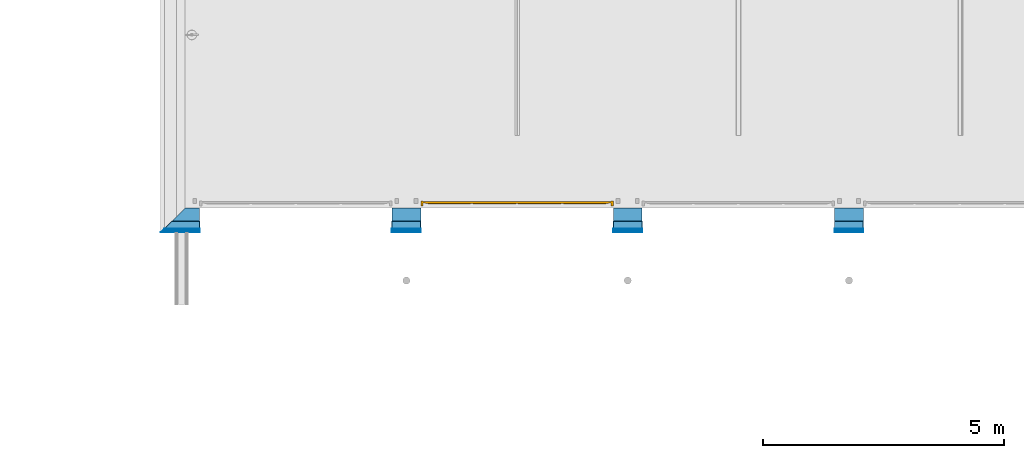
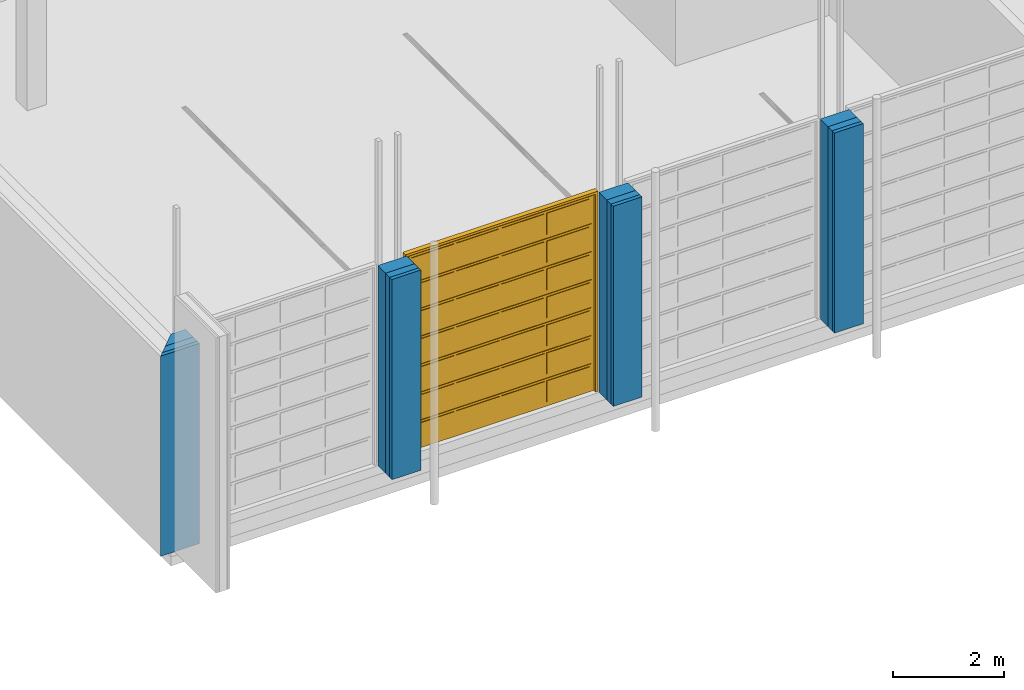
# One storey, part 21 of 112: 3 building element parts, 1 door, 4 openings, 1 element without a shape of its own.
"""IFC2X3 building model written with IfcOpenShell, lengths in millimetres."""

from ifc_helpers import new_model, entity, si_unit, converted_unit, derived_unit, money_unit, direction, frame, origin_with_axes, origin_2d_with_axis, place, context, subcontext, project, spatial, polyline, rectangle, outline, extrude, faceted_brep, source, transform, mapped, material, type_object, element, fill, aggregate, save


model = new_model("IFC2X3")

# Units and contexts
model_context = context("Model", 3, precision=0.01, world=origin_with_axes(), true_north=direction((0.0, 1.0)))
body_context = subcontext(model_context, "Body", "Model", "MODEL_VIEW")
ifc_project = project(units=[si_unit("LENGTHUNIT", "METRE", prefix="MILLI"), si_unit("AREAUNIT", "SQUARE_METRE"), si_unit("VOLUMEUNIT", "CUBIC_METRE"), converted_unit("PLANEANGLEUNIT", "DEGREE", entity("IfcPlaneAngleMeasure", 0.0174532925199), si_unit("PLANEANGLEUNIT", "RADIAN"), dimensions=[0, 0, 0, 0, 0, 0, 0]), si_unit("SOLIDANGLEUNIT", "STERADIAN"), money_unit("EUR"), converted_unit("TIMEUNIT", "Year", entity("IfcTimeMeasure", 31556926.0), si_unit("TIMEUNIT", "SECOND"), dimensions=[0, 0, 1, 0, 0, 0, 0]), si_unit("MASSUNIT", "GRAM", prefix="KILO"), si_unit("THERMODYNAMICTEMPERATUREUNIT", "DEGREE_CELSIUS"), si_unit("LUMINOUSINTENSITYUNIT", "LUMEN"), si_unit("ENERGYUNIT", "JOULE", prefix="MEGA"), derived_unit("THERMALCONDUCTANCEUNIT", [(si_unit("POWERUNIT", "WATT"), 1), (si_unit("LENGTHUNIT", "METRE"), -1), (si_unit("THERMODYNAMICTEMPERATUREUNIT", "KELVIN"), -1)]), derived_unit("SPECIFICHEATCAPACITYUNIT", [(si_unit("ENERGYUNIT", "JOULE"), 1), (si_unit("MASSUNIT", "GRAM", prefix="KILO"), -1), (si_unit("THERMODYNAMICTEMPERATUREUNIT", "KELVIN"), -1)]), derived_unit("MASSDENSITYUNIT", [(si_unit("MASSUNIT", "GRAM", prefix="KILO"), 1), (si_unit("VOLUMEUNIT", "CUBIC_METRE"), -1)])], contexts=[model_context])

# Site, building, storey
site_placement = place(None, origin_with_axes())
site = spatial("IfcSite", under=ifc_project, at=site_placement, Name="Politse- ja Piirivalveameti ning Päästeameti ühishoone", CompositionType="ELEMENT")
building_placement = place(site_placement, origin_with_axes())
building = spatial("IfcBuilding", under=site, at=building_placement, Name="Politse- ja Piirivalveameti ning Päästeameti ühishoone", CompositionType="ELEMENT")
storey_placement = place(building_placement, origin_with_axes())
storey = spatial("IfcBuildingStorey", under=building, at=storey_placement, Name="Esimene korrus", CompositionType="ELEMENT", Elevation=0.0)

# Door
door_style = type_object("IfcDoorStyle", Name="Vertical Sliding Garage Door 23", ConstructionType="NOTDEFINED", OperationType="ROLLINGUP", ParameterTakesPrecedence=False, Sizeable=False)
shared_shape = source(origin_with_axes(), body_context, "Body", "Brep", [
    faceted_brep([(2000.0, 0.0, 0.0), (2000.0, -100.0, 0.0), (1950.0, -100.0, 0.0), (1950.0, 0.0, 0.0), (2000.0, 0.0, 4350.0), (2000.0, -100.0, 4350.0), (1950.0, -100.0, 4350.0), (1950.0, 0.0, 4350.0)], [[[0, 1, 2, 3]], [[4, 5, 1, 0]], [[1, 5, 6, 2]], [[3, 2, 6, 7]], [[0, 3, 7, 4]], [[7, 6, 5, 4]]]),
    faceted_brep([(-2000.0, 0.0, 0.0), (-2000.0, -100.0, 0.0), (-2000.0, -100.0, 4350.0), (-2000.0, 0.0, 4350.0), (-1950.0, 0.0, 0.0), (-1950.0, -100.0, 0.0), (-1950.0, -100.0, 4350.0), (-1950.0, 0.0, 4350.0)], [[[0, 1, 2, 3]], [[4, 5, 1, 0]], [[1, 5, 6, 2]], [[3, 2, 6, 7]], [[0, 3, 7, 4]], [[7, 6, 5, 4]]]),
    faceted_brep([(2000.0, 0.0, 4400.0), (2000.0, -100.0, 4400.0), (2000.0, -100.0, 4350.0), (2000.0, 0.0, 4350.0), (-2000.0, 0.0, 4400.0), (-2000.0, -100.0, 4400.0), (-2000.0, -100.0, 4350.0), (-1950.0, -100.0, 4350.0), (1950.0, -100.0, 4350.0), (1950.0, 0.0, 4350.0), (-1950.0, 0.0, 4350.0), (-2000.0, 0.0, 4350.0)], [[[0, 1, 2, 3]], [[4, 5, 1, 0]], [[1, 5, 6, 7, 8, 2]], [[3, 2, 8, 9]], [[0, 3, 9, 10, 11, 4]], [[11, 6, 5, 4]], [[10, 7, 6, 11]], [[9, 8, 7, 10]]]),
    faceted_brep([(-1950.0, -5.5, 0.0), (1950.0, -5.5, 0.0), (1950.0, -35.5, 0.0), (-1950.0, -35.5, 0.0), (-1950.0, -5.5, 4350.0), (1950.0, -5.5, 4350.0), (1950.0, -35.5, 4350.0), (-1950.0, -35.5, 4350.0)], [[[0, 1, 2, 3]], [[0, 4, 5, 1]], [[1, 5, 6, 2]], [[3, 2, 6, 7]], [[4, 0, 3, 7]], [[5, 4, 7, 6]]]),
    faceted_brep([(1900.0, -35.5, 50.0), (-1900.0, -35.5, 50.0), (-1900.0, -35.5, 614.285714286), (1900.0, -35.5, 614.285714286), (1900.0, -45.5, 50.0), (-1900.0, -45.5, 50.0), (-1900.0, -45.5, 614.285714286), (1900.0, -45.5, 614.285714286)], [[[0, 1, 2, 3]], [[1, 0, 4, 5]], [[2, 1, 5, 6]], [[3, 2, 6, 7]], [[0, 3, 7, 4]], [[5, 4, 7, 6]]]),
    faceted_brep([(-962.5, -45.5, 100.0), (-1850.0, -45.5, 100.0), (-1850.0, -45.5, 564.285714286), (-962.5, -45.5, 564.285714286), (-962.5, -55.5, 100.0), (-1850.0, -55.5, 100.0), (-1850.0, -55.5, 564.285714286), (-962.5, -55.5, 564.285714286)], [[[0, 1, 2, 3]], [[1, 0, 4, 5]], [[2, 1, 5, 6]], [[3, 2, 6, 7]], [[0, 3, 7, 4]], [[5, 4, 7, 6]]]),
    faceted_brep([(-25.0, -45.5, 100.0), (-912.5, -45.5, 100.0), (-912.5, -45.5, 564.285714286), (-25.0, -45.5, 564.285714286), (-25.0, -55.5, 100.0), (-912.5, -55.5, 100.0), (-912.5, -55.5, 564.285714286), (-25.0, -55.5, 564.285714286)], [[[0, 1, 2, 3]], [[1, 0, 4, 5]], [[2, 1, 5, 6]], [[3, 2, 6, 7]], [[0, 3, 7, 4]], [[5, 4, 7, 6]]]),
    faceted_brep([(912.5, -45.5, 100.0), (25.0, -45.5, 100.0), (25.0, -45.5, 564.285714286), (912.5, -45.5, 564.285714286), (912.5, -55.5, 100.0), (25.0, -55.5, 100.0), (25.0, -55.5, 564.285714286), (912.5, -55.5, 564.285714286)], [[[0, 1, 2, 3]], [[1, 0, 4, 5]], [[2, 1, 5, 6]], [[3, 2, 6, 7]], [[0, 3, 7, 4]], [[5, 4, 7, 6]]]),
    faceted_brep([(1850.0, -45.5, 100.0), (962.5, -45.5, 100.0), (962.5, -45.5, 564.285714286), (1850.0, -45.5, 564.285714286), (1850.0, -55.5, 100.0), (962.5, -55.5, 100.0), (962.5, -55.5, 564.285714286), (1850.0, -55.5, 564.285714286)], [[[0, 1, 2, 3]], [[1, 0, 4, 5]], [[2, 1, 5, 6]], [[3, 2, 6, 7]], [[0, 3, 7, 4]], [[5, 4, 7, 6]]]),
    faceted_brep([(1900.0, -35.5, 664.285714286), (-1900.0, -35.5, 664.285714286), (-1900.0, -35.5, 1228.57142857), (1900.0, -35.5, 1228.57142857), (1900.0, -45.5, 664.285714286), (-1900.0, -45.5, 664.285714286), (-1900.0, -45.5, 1228.57142857), (1900.0, -45.5, 1228.57142857)], [[[0, 1, 2, 3]], [[1, 0, 4, 5]], [[2, 1, 5, 6]], [[3, 2, 6, 7]], [[0, 3, 7, 4]], [[5, 4, 7, 6]]]),
    faceted_brep([(-962.5, -45.5, 714.285714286), (-1850.0, -45.5, 714.285714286), (-1850.0, -45.5, 1178.57142857), (-962.5, -45.5, 1178.57142857), (-962.5, -55.5, 714.285714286), (-1850.0, -55.5, 714.285714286), (-1850.0, -55.5, 1178.57142857), (-962.5, -55.5, 1178.57142857)], [[[0, 1, 2, 3]], [[1, 0, 4, 5]], [[2, 1, 5, 6]], [[3, 2, 6, 7]], [[0, 3, 7, 4]], [[5, 4, 7, 6]]]),
    faceted_brep([(-25.0, -45.5, 714.285714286), (-912.5, -45.5, 714.285714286), (-912.5, -45.5, 1178.57142857), (-25.0, -45.5, 1178.57142857), (-25.0, -55.5, 714.285714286), (-912.5, -55.5, 714.285714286), (-912.5, -55.5, 1178.57142857), (-25.0, -55.5, 1178.57142857)], [[[0, 1, 2, 3]], [[1, 0, 4, 5]], [[2, 1, 5, 6]], [[3, 2, 6, 7]], [[0, 3, 7, 4]], [[5, 4, 7, 6]]]),
    faceted_brep([(912.5, -45.5, 714.285714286), (25.0, -45.5, 714.285714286), (25.0, -45.5, 1178.57142857), (912.5, -45.5, 1178.57142857), (912.5, -55.5, 714.285714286), (25.0, -55.5, 714.285714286), (25.0, -55.5, 1178.57142857), (912.5, -55.5, 1178.57142857)], [[[0, 1, 2, 3]], [[1, 0, 4, 5]], [[2, 1, 5, 6]], [[3, 2, 6, 7]], [[0, 3, 7, 4]], [[5, 4, 7, 6]]]),
    faceted_brep([(1850.0, -45.5, 714.285714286), (962.5, -45.5, 714.285714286), (962.5, -45.5, 1178.57142857), (1850.0, -45.5, 1178.57142857), (1850.0, -55.5, 714.285714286), (962.5, -55.5, 714.285714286), (962.5, -55.5, 1178.57142857), (1850.0, -55.5, 1178.57142857)], [[[0, 1, 2, 3]], [[1, 0, 4, 5]], [[2, 1, 5, 6]], [[3, 2, 6, 7]], [[0, 3, 7, 4]], [[5, 4, 7, 6]]]),
    faceted_brep([(1900.0, -35.5, 1278.57142857), (-1900.0, -35.5, 1278.57142857), (-1900.0, -35.5, 1842.85714286), (1900.0, -35.5, 1842.85714286), (1900.0, -45.5, 1278.57142857), (-1900.0, -45.5, 1278.57142857), (-1900.0, -45.5, 1842.85714286), (1900.0, -45.5, 1842.85714286)], [[[0, 1, 2, 3]], [[1, 0, 4, 5]], [[2, 1, 5, 6]], [[3, 2, 6, 7]], [[0, 3, 7, 4]], [[5, 4, 7, 6]]]),
    faceted_brep([(-962.5, -45.5, 1328.57142857), (-1850.0, -45.5, 1328.57142857), (-1850.0, -45.5, 1792.85714286), (-962.5, -45.5, 1792.85714286), (-962.5, -55.5, 1328.57142857), (-1850.0, -55.5, 1328.57142857), (-1850.0, -55.5, 1792.85714286), (-962.5, -55.5, 1792.85714286)], [[[0, 1, 2, 3]], [[1, 0, 4, 5]], [[2, 1, 5, 6]], [[3, 2, 6, 7]], [[0, 3, 7, 4]], [[5, 4, 7, 6]]]),
    faceted_brep([(-25.0, -45.5, 1328.57142857), (-912.5, -45.5, 1328.57142857), (-912.5, -45.5, 1792.85714286), (-25.0, -45.5, 1792.85714286), (-25.0, -55.5, 1328.57142857), (-912.5, -55.5, 1328.57142857), (-912.5, -55.5, 1792.85714286), (-25.0, -55.5, 1792.85714286)], [[[0, 1, 2, 3]], [[1, 0, 4, 5]], [[2, 1, 5, 6]], [[3, 2, 6, 7]], [[0, 3, 7, 4]], [[5, 4, 7, 6]]]),
    faceted_brep([(912.5, -45.5, 1328.57142857), (25.0, -45.5, 1328.57142857), (25.0, -45.5, 1792.85714286), (912.5, -45.5, 1792.85714286), (912.5, -55.5, 1328.57142857), (25.0, -55.5, 1328.57142857), (25.0, -55.5, 1792.85714286), (912.5, -55.5, 1792.85714286)], [[[0, 1, 2, 3]], [[1, 0, 4, 5]], [[2, 1, 5, 6]], [[3, 2, 6, 7]], [[0, 3, 7, 4]], [[5, 4, 7, 6]]]),
    faceted_brep([(1850.0, -45.5, 1328.57142857), (962.5, -45.5, 1328.57142857), (962.5, -45.5, 1792.85714286), (1850.0, -45.5, 1792.85714286), (1850.0, -55.5, 1328.57142857), (962.5, -55.5, 1328.57142857), (962.5, -55.5, 1792.85714286), (1850.0, -55.5, 1792.85714286)], [[[0, 1, 2, 3]], [[1, 0, 4, 5]], [[2, 1, 5, 6]], [[3, 2, 6, 7]], [[0, 3, 7, 4]], [[5, 4, 7, 6]]]),
    faceted_brep([(1900.0, -35.5, 1892.85714286), (-1900.0, -35.5, 1892.85714286), (-1900.0, -35.5, 2457.14285714), (1900.0, -35.5, 2457.14285714), (1900.0, -45.5, 1892.85714286), (-1900.0, -45.5, 1892.85714286), (-1900.0, -45.5, 2457.14285714), (1900.0, -45.5, 2457.14285714)], [[[0, 1, 2, 3]], [[1, 0, 4, 5]], [[2, 1, 5, 6]], [[3, 2, 6, 7]], [[0, 3, 7, 4]], [[5, 4, 7, 6]]]),
    faceted_brep([(-962.5, -45.5, 1942.85714286), (-1850.0, -45.5, 1942.85714286), (-1850.0, -45.5, 2407.14285714), (-962.5, -45.5, 2407.14285714), (-962.5, -55.5, 1942.85714286), (-1850.0, -55.5, 1942.85714286), (-1850.0, -55.5, 2407.14285714), (-962.5, -55.5, 2407.14285714)], [[[0, 1, 2, 3]], [[1, 0, 4, 5]], [[2, 1, 5, 6]], [[3, 2, 6, 7]], [[0, 3, 7, 4]], [[5, 4, 7, 6]]]),
    faceted_brep([(-25.0, -45.5, 1942.85714286), (-912.5, -45.5, 1942.85714286), (-912.5, -45.5, 2407.14285714), (-25.0, -45.5, 2407.14285714), (-25.0, -55.5, 1942.85714286), (-912.5, -55.5, 1942.85714286), (-912.5, -55.5, 2407.14285714), (-25.0, -55.5, 2407.14285714)], [[[0, 1, 2, 3]], [[1, 0, 4, 5]], [[2, 1, 5, 6]], [[3, 2, 6, 7]], [[0, 3, 7, 4]], [[5, 4, 7, 6]]]),
    faceted_brep([(912.5, -45.5, 1942.85714286), (25.0, -45.5, 1942.85714286), (25.0, -45.5, 2407.14285714), (912.5, -45.5, 2407.14285714), (912.5, -55.5, 1942.85714286), (25.0, -55.5, 1942.85714286), (25.0, -55.5, 2407.14285714), (912.5, -55.5, 2407.14285714)], [[[0, 1, 2, 3]], [[1, 0, 4, 5]], [[2, 1, 5, 6]], [[3, 2, 6, 7]], [[0, 3, 7, 4]], [[5, 4, 7, 6]]]),
    faceted_brep([(1850.0, -45.5, 1942.85714286), (962.5, -45.5, 1942.85714286), (962.5, -45.5, 2407.14285714), (1850.0, -45.5, 2407.14285714), (1850.0, -55.5, 1942.85714286), (962.5, -55.5, 1942.85714286), (962.5, -55.5, 2407.14285714), (1850.0, -55.5, 2407.14285714)], [[[0, 1, 2, 3]], [[1, 0, 4, 5]], [[2, 1, 5, 6]], [[3, 2, 6, 7]], [[0, 3, 7, 4]], [[5, 4, 7, 6]]]),
    faceted_brep([(1900.0, -35.5, 2507.14285714), (-1900.0, -35.5, 2507.14285714), (-1900.0, -35.5, 3071.42857143), (1900.0, -35.5, 3071.42857143), (1900.0, -45.5, 2507.14285714), (-1900.0, -45.5, 2507.14285714), (-1900.0, -45.5, 3071.42857143), (1900.0, -45.5, 3071.42857143)], [[[0, 1, 2, 3]], [[1, 0, 4, 5]], [[2, 1, 5, 6]], [[3, 2, 6, 7]], [[0, 3, 7, 4]], [[5, 4, 7, 6]]]),
    faceted_brep([(-962.5, -45.5, 2557.14285714), (-1850.0, -45.5, 2557.14285714), (-1850.0, -45.5, 3021.42857143), (-962.5, -45.5, 3021.42857143), (-962.5, -55.5, 2557.14285714), (-1850.0, -55.5, 2557.14285714), (-1850.0, -55.5, 3021.42857143), (-962.5, -55.5, 3021.42857143)], [[[0, 1, 2, 3]], [[1, 0, 4, 5]], [[2, 1, 5, 6]], [[3, 2, 6, 7]], [[0, 3, 7, 4]], [[5, 4, 7, 6]]]),
    faceted_brep([(-25.0, -45.5, 2557.14285714), (-912.5, -45.5, 2557.14285714), (-912.5, -45.5, 3021.42857143), (-25.0, -45.5, 3021.42857143), (-25.0, -55.5, 2557.14285714), (-912.5, -55.5, 2557.14285714), (-912.5, -55.5, 3021.42857143), (-25.0, -55.5, 3021.42857143)], [[[0, 1, 2, 3]], [[1, 0, 4, 5]], [[2, 1, 5, 6]], [[3, 2, 6, 7]], [[0, 3, 7, 4]], [[5, 4, 7, 6]]]),
    faceted_brep([(912.5, -45.5, 2557.14285714), (25.0, -45.5, 2557.14285714), (25.0, -45.5, 3021.42857143), (912.5, -45.5, 3021.42857143), (912.5, -55.5, 2557.14285714), (25.0, -55.5, 2557.14285714), (25.0, -55.5, 3021.42857143), (912.5, -55.5, 3021.42857143)], [[[0, 1, 2, 3]], [[1, 0, 4, 5]], [[2, 1, 5, 6]], [[3, 2, 6, 7]], [[0, 3, 7, 4]], [[5, 4, 7, 6]]]),
    faceted_brep([(1850.0, -45.5, 2557.14285714), (962.5, -45.5, 2557.14285714), (962.5, -45.5, 3021.42857143), (1850.0, -45.5, 3021.42857143), (1850.0, -55.5, 2557.14285714), (962.5, -55.5, 2557.14285714), (962.5, -55.5, 3021.42857143), (1850.0, -55.5, 3021.42857143)], [[[0, 1, 2, 3]], [[1, 0, 4, 5]], [[2, 1, 5, 6]], [[3, 2, 6, 7]], [[0, 3, 7, 4]], [[5, 4, 7, 6]]]),
    faceted_brep([(1900.0, -35.5, 3121.42857143), (-1900.0, -35.5, 3121.42857143), (-1900.0, -35.5, 3685.71428571), (1900.0, -35.5, 3685.71428571), (1900.0, -45.5, 3121.42857143), (-1900.0, -45.5, 3121.42857143), (-1900.0, -45.5, 3685.71428571), (1900.0, -45.5, 3685.71428571)], [[[0, 1, 2, 3]], [[1, 0, 4, 5]], [[2, 1, 5, 6]], [[3, 2, 6, 7]], [[0, 3, 7, 4]], [[5, 4, 7, 6]]]),
    faceted_brep([(-962.5, -45.5, 3171.42857143), (-1850.0, -45.5, 3171.42857143), (-1850.0, -45.5, 3635.71428571), (-962.5, -45.5, 3635.71428571), (-962.5, -55.5, 3171.42857143), (-1850.0, -55.5, 3171.42857143), (-1850.0, -55.5, 3635.71428571), (-962.5, -55.5, 3635.71428571)], [[[0, 1, 2, 3]], [[1, 0, 4, 5]], [[2, 1, 5, 6]], [[3, 2, 6, 7]], [[0, 3, 7, 4]], [[5, 4, 7, 6]]]),
    faceted_brep([(-25.0, -45.5, 3171.42857143), (-912.5, -45.5, 3171.42857143), (-912.5, -45.5, 3635.71428571), (-25.0, -45.5, 3635.71428571), (-25.0, -55.5, 3171.42857143), (-912.5, -55.5, 3171.42857143), (-912.5, -55.5, 3635.71428571), (-25.0, -55.5, 3635.71428571)], [[[0, 1, 2, 3]], [[1, 0, 4, 5]], [[2, 1, 5, 6]], [[3, 2, 6, 7]], [[0, 3, 7, 4]], [[5, 4, 7, 6]]]),
    faceted_brep([(912.5, -45.5, 3171.42857143), (25.0, -45.5, 3171.42857143), (25.0, -45.5, 3635.71428571), (912.5, -45.5, 3635.71428571), (912.5, -55.5, 3171.42857143), (25.0, -55.5, 3171.42857143), (25.0, -55.5, 3635.71428571), (912.5, -55.5, 3635.71428571)], [[[0, 1, 2, 3]], [[1, 0, 4, 5]], [[2, 1, 5, 6]], [[3, 2, 6, 7]], [[0, 3, 7, 4]], [[5, 4, 7, 6]]]),
    faceted_brep([(1850.0, -45.5, 3171.42857143), (962.5, -45.5, 3171.42857143), (962.5, -45.5, 3635.71428571), (1850.0, -45.5, 3635.71428571), (1850.0, -55.5, 3171.42857143), (962.5, -55.5, 3171.42857143), (962.5, -55.5, 3635.71428571), (1850.0, -55.5, 3635.71428571)], [[[0, 1, 2, 3]], [[1, 0, 4, 5]], [[2, 1, 5, 6]], [[3, 2, 6, 7]], [[0, 3, 7, 4]], [[5, 4, 7, 6]]]),
    faceted_brep([(1900.0, -35.5, 3735.71428571), (-1900.0, -35.5, 3735.71428571), (-1900.0, -35.5, 4300.0), (1900.0, -35.5, 4300.0), (1900.0, -45.5, 3735.71428571), (-1900.0, -45.5, 3735.71428571), (-1900.0, -45.5, 4300.0), (1900.0, -45.5, 4300.0)], [[[0, 1, 2, 3]], [[1, 0, 4, 5]], [[2, 1, 5, 6]], [[3, 2, 6, 7]], [[0, 3, 7, 4]], [[5, 4, 7, 6]]]),
    faceted_brep([(-962.5, -45.5, 3785.71428571), (-1850.0, -45.5, 3785.71428571), (-1850.0, -45.5, 4250.0), (-962.5, -45.5, 4250.0), (-962.5, -55.5, 3785.71428571), (-1850.0, -55.5, 3785.71428571), (-1850.0, -55.5, 4250.0), (-962.5, -55.5, 4250.0)], [[[0, 1, 2, 3]], [[1, 0, 4, 5]], [[2, 1, 5, 6]], [[3, 2, 6, 7]], [[0, 3, 7, 4]], [[5, 4, 7, 6]]]),
    faceted_brep([(-25.0, -45.5, 3785.71428571), (-912.5, -45.5, 3785.71428571), (-912.5, -45.5, 4250.0), (-25.0, -45.5, 4250.0), (-25.0, -55.5, 3785.71428571), (-912.5, -55.5, 3785.71428571), (-912.5, -55.5, 4250.0), (-25.0, -55.5, 4250.0)], [[[0, 1, 2, 3]], [[1, 0, 4, 5]], [[2, 1, 5, 6]], [[3, 2, 6, 7]], [[0, 3, 7, 4]], [[5, 4, 7, 6]]]),
    faceted_brep([(912.5, -45.5, 3785.71428571), (25.0, -45.5, 3785.71428571), (25.0, -45.5, 4250.0), (912.5, -45.5, 4250.0), (912.5, -55.5, 3785.71428571), (25.0, -55.5, 3785.71428571), (25.0, -55.5, 4250.0), (912.5, -55.5, 4250.0)], [[[0, 1, 2, 3]], [[1, 0, 4, 5]], [[2, 1, 5, 6]], [[3, 2, 6, 7]], [[0, 3, 7, 4]], [[5, 4, 7, 6]]]),
    faceted_brep([(1850.0, -45.5, 3785.71428571), (962.5, -45.5, 3785.71428571), (962.5, -45.5, 4250.0), (1850.0, -45.5, 4250.0), (1850.0, -55.5, 3785.71428571), (962.5, -55.5, 3785.71428571), (962.5, -55.5, 4250.0), (1850.0, -55.5, 4250.0)], [[[0, 1, 2, 3]], [[1, 0, 4, 5]], [[2, 1, 5, 6]], [[3, 2, 6, 7]], [[0, 3, 7, 4]], [[5, 4, 7, 6]]]),
])
wall_placement = place(storey_placement, origin_with_axes())
opening_1_placement = place(wall_placement, frame((6899.66559551, 0.0, 0.0), z_axis=(0.0, 0.0, 1.0), x_axis=(1.0, 0.0, 0.0)))
door_placement = place(opening_1_placement, frame((-2000.0, 0.0, 0.0), z_axis=(0.0, 0.0, 1.0), x_axis=(1.0, 0.0, 0.0)))
door = element("IfcDoor", 1, at=door_placement, inside=storey, type_object=door_style, Name="TV-07", ObjectType="DOOR", OverallHeight=4400.0, OverallWidth=4000.0, context=body_context, shape_type="MappedRepresentation", body=[
    mapped(shared_shape, transform((2000.0, 140.0, 0.0))),
])

# Wall, opening
wall_type = type_object("IfcWallType", Name="VS-14_välissein gar uste vahel 510", PredefinedType="NOTDEFINED")
wall = element("IfcWall", 2, at=wall_placement, inside=storey, type_object=wall_type, Name="VS-14")
opening_1 = element("IfcOpeningElement", 3, at=opening_1_placement, cuts=wall, Name="TV-07", context=body_context, shape_type="SweptSolid", body=[
    extrude(rectangle(XDim=4000.0, YDim=4400.0, at=origin_2d_with_axis()), frame((0.0, 40.0, 2200.0), z_axis=(0.0, -1.0, 0.0), x_axis=(-1.0, 0.0, 0.0)), (0.0, 0.0, 1.0), 1060.0),
    extrude(outline(polyline([(-2000.0, 8800.0), (-2000.0, 4400.0), (2000.0, 4400.0), (2000.0, 8800.0), (-2000.0, 8800.0)])), frame((0.0, 135.0, 0.0), z_axis=(0.0, 1.0, 0.0), x_axis=(-1.0, 0.0, 0.0)), (0.0, 0.0, -1.0), 45.0),
    extrude(rectangle(XDim=4000.0, YDim=4400.0, at=origin_2d_with_axis()), frame((0.0, 40.0, 2200.0), z_axis=(0.0, 1.0, 0.0), x_axis=(-1.0, 0.0, 0.0)), (0.0, 0.0, 1.0), 550.0),
])

fill(opening_1, door)

# Opening
opening_2_placement = place(wall_placement, frame((11499.3611204, 0.0, 0.0), z_axis=(0.0, 0.0, 1.0), x_axis=(1.0, 0.0, 0.0)))
element("IfcOpeningElement", 4, at=opening_2_placement, cuts=wall, Name="TV-07", context=body_context, shape_type="SweptSolid", body=[
    extrude(rectangle(XDim=4000.0, YDim=4400.0, at=origin_2d_with_axis()), frame((0.0, 40.0, 2200.0), z_axis=(0.0, 1.0, 0.0), x_axis=(1.0, 0.0, 0.0)), (0.0, 0.0, -1.0), 1060.0),
    extrude(outline(polyline([(-2000.0, 8800.0), (-2000.0, 4400.0), (2000.0, 4400.0), (2000.0, 8800.0), (-2000.0, 8800.0)])), frame((0.0, 135.0, 0.0), z_axis=(0.0, -1.0, 0.0), x_axis=(1.0, 0.0, 0.0)), (0.0, 0.0, 1.0), 45.0),
    extrude(rectangle(XDim=4000.0, YDim=4400.0, at=origin_2d_with_axis()), frame((0.0, 40.0, 2200.0), z_axis=(0.0, -1.0, 0.0), x_axis=(1.0, 0.0, 0.0)), (0.0, 0.0, -1.0), 550.0),
])

opening_3_placement = place(wall_placement, frame((16099.6782559, 0.0, 0.0), z_axis=(0.0, 0.0, 1.0), x_axis=(1.0, 0.0, 0.0)))
element("IfcOpeningElement", 5, at=opening_3_placement, cuts=wall, Name="TV-07", context=body_context, shape_type="SweptSolid", body=[
    extrude(rectangle(XDim=4000.0, YDim=4400.0, at=origin_2d_with_axis()), frame((0.0, 40.0, 2200.0), z_axis=(0.0, -1.0, 0.0), x_axis=(-1.0, 0.0, 0.0)), (0.0, 0.0, 1.0), 1060.0),
    extrude(outline(polyline([(-2000.0, 8800.0), (-2000.0, 4400.0), (2000.0, 4400.0), (2000.0, 8800.0), (-2000.0, 8800.0)])), frame((0.0, 135.0, 0.0), z_axis=(0.0, 1.0, 0.0), x_axis=(-1.0, 0.0, 0.0)), (0.0, 0.0, -1.0), 45.0),
    extrude(rectangle(XDim=4000.0, YDim=4400.0, at=origin_2d_with_axis()), frame((0.0, 40.0, 2200.0), z_axis=(0.0, 1.0, 0.0), x_axis=(-1.0, 0.0, 0.0)), (0.0, 0.0, 1.0), 550.0),
])

opening_4_placement = place(wall_placement, frame((2299.34846005, 0.0, 0.0), z_axis=(0.0, 0.0, 1.0), x_axis=(1.0, 0.0, 0.0)))
element("IfcOpeningElement", 6, at=opening_4_placement, cuts=wall, Name="TV-07", context=body_context, shape_type="SweptSolid", body=[
    extrude(rectangle(XDim=4000.0, YDim=4400.0, at=origin_2d_with_axis()), frame((0.0, 40.0, 2200.0), z_axis=(0.0, 1.0, 0.0), x_axis=(1.0, 0.0, 0.0)), (0.0, 0.0, -1.0), 1060.0),
    extrude(outline(polyline([(-2000.0, 8800.0), (-2000.0, 4400.0), (2000.0, 4400.0), (2000.0, 8800.0), (-2000.0, 8800.0)])), frame((0.0, 135.0, 0.0), z_axis=(0.0, -1.0, 0.0), x_axis=(1.0, 0.0, 0.0)), (0.0, 0.0, 1.0), 45.0),
    extrude(rectangle(XDim=4000.0, YDim=4400.0, at=origin_2d_with_axis()), frame((0.0, 40.0, 2200.0), z_axis=(0.0, -1.0, 0.0), x_axis=(1.0, 0.0, 0.0)), (0.0, 0.0, -1.0), 550.0),
])

# Building element part
ifc_material_1 = material(Name="KON-04_Betoon - Konstuktsioon")
building_element_part_1_placement = place(wall_placement, origin_with_axes())
building_element_part_1 = element("IfcBuildingElementPart", 7, at=building_element_part_1_placement, material=ifc_material_1, Name="KON-04_Betoon - Konstuktsioon", context=body_context, shape_type="SweptSolid", body=[
    extrude(outline(polyline([(-280.0, -280.0), (18099.6782559, -280.0), (18099.6782559, 0.0), (0.0, 0.0), (-280.0, -280.0)])), origin_with_axes(), (0.0, 0.0, 1.0), 4400.0),
])

ifc_material_2 = material(Name="SOJ-06_Soojustus - Plastik Kõva")
building_element_part_2_placement = place(wall_placement, origin_with_axes())
building_element_part_2 = element("IfcBuildingElementPart", 8, at=building_element_part_2_placement, material=ifc_material_2, Name="SOJ-06_Soojustus - Plastik Kõva", context=body_context, shape_type="SweptSolid", body=[
    extrude(outline(polyline([(-430.0, -430.0), (18099.6782559, -430.0), (18099.6782559, -280.0), (-280.0, -280.0), (-430.0, -430.0)])), origin_with_axes(), (0.0, 0.0, 1.0), 4400.0),
])

building_element_part_3_placement = place(wall_placement, origin_with_axes())
building_element_part_3 = element("IfcBuildingElementPart", 9, at=building_element_part_3_placement, material=ifc_material_1, Name="KON-04_Betoon - Konstuktsioon", context=body_context, shape_type="SweptSolid", body=[
    extrude(outline(polyline([(-510.0, -510.0), (18099.6782559, -510.0), (18099.6782559, -430.0), (-430.0, -430.0), (-510.0, -510.0)])), origin_with_axes(), (0.0, 0.0, 1.0), 4400.0),
])

aggregate(wall, [building_element_part_1, building_element_part_2, building_element_part_3])

save(model, "model.ifc")
